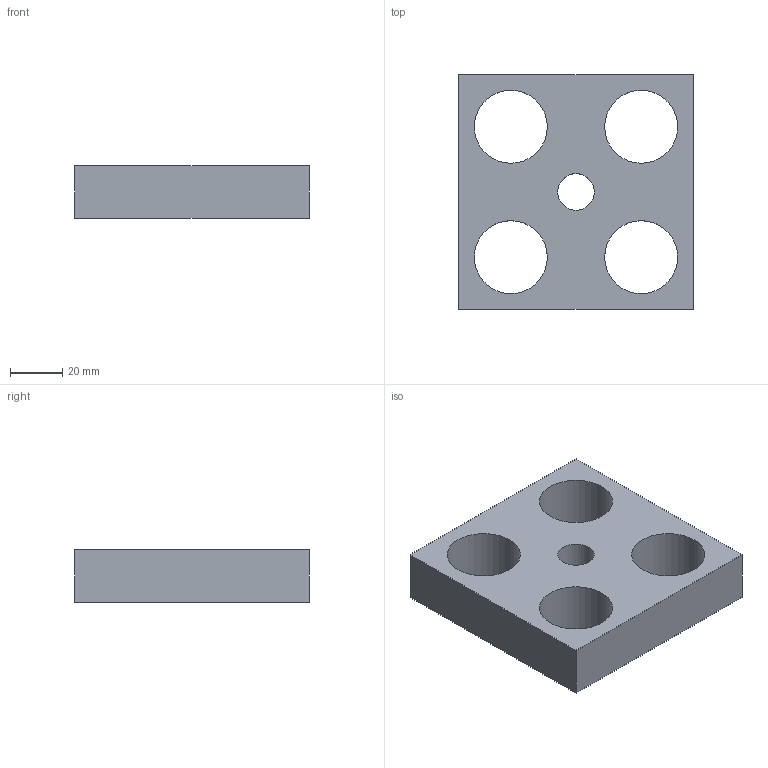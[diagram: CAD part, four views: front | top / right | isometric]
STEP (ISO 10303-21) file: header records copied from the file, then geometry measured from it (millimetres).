
FILE_DESCRIPTION(/* description */ (''),/* implementation_level */ '2;1');
FILE_NAME(/* name */ '2020TOMO-TELAIO.Piedino.Piastrina.2.stp',/* time_stamp */ '2022-05-16T13:05:53+02:00',/* author */ (''),/* organization */ (''),/* preprocessor_version */ 'ST-DEVELOPER v18.102',/* originating_system */ 'SIEMENS PLM Software NX 2000',/* authorisation */ '');
FILE_SCHEMA (('AUTOMOTIVE_DESIGN { 1 0 10303 214 3 1 1 1 }'));
Length unit declared in the file: millimetre
Products named in the file (1): turc3144724Fyy24
Bounding box: 90 x 90 x 20 mm (x, y, z)
Volume: 109661.1 mm3; surface area: 26082.9 mm2
Topology: 1 solids, 1 shells, 11 faces, 29 edges, 20 vertices
Faces by surface type: plane 6, cylinder 5
Full cylindrical faces by diameter (mm): 14 x1, 28 x4
Entity records: 379 total; most frequent: DIRECTION 60, CARTESIAN_POINT 54, ORIENTED_EDGE 44, EDGE_LOOP 26, AXIS2_PLACEMENT_3D 24, FACE_BOUND 22, EDGE_CURVE 22, VERTEX_POINT 18
